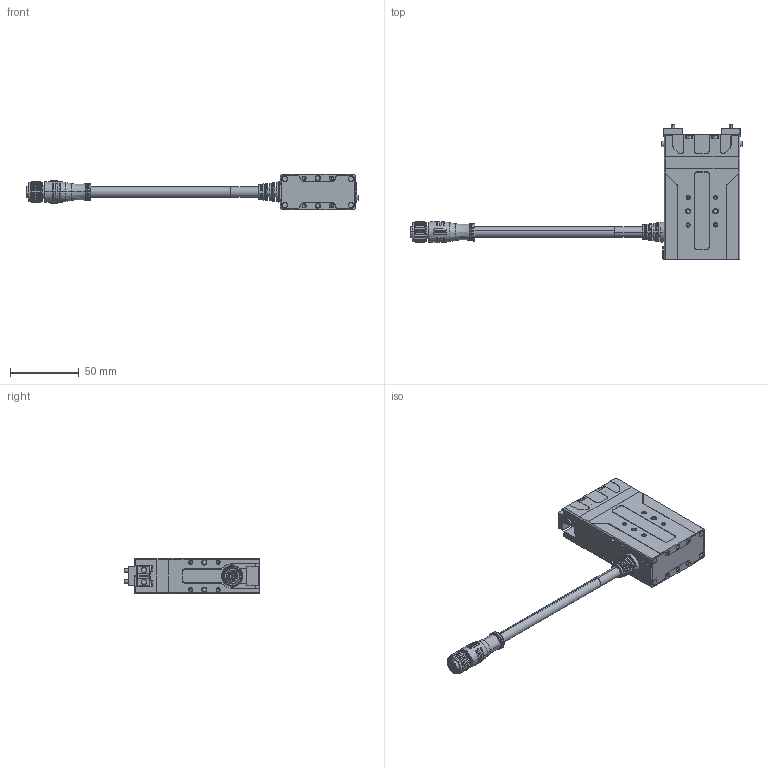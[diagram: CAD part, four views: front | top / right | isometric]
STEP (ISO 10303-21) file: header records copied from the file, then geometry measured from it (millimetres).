
FILE_DESCRIPTION (( 'STEP AP214' ), '1' );
FILE_NAME ('PGE-5-26-O-S.STEP', '2023-07-19T04:06:49', ( '' ), ( '' ), 'SwSTEP 2.0', 'SolidWorks 2020', '' );
FILE_SCHEMA (( 'AUTOMOTIVE_DESIGN' ));
Length unit declared in the file: millimetre
Products named in the file (3): PGE-5-26-O-S; PGE5-忒硌價釱; 耜堤褲
Assembly tree (3 placements, depth 2):
  PGE-5-26-O-S
    耜堤褲
    PGE5-忒硌價釱  x2
Bounding box: 241.5 x 98 x 26 mm (x, y, z)
Volume: 8194.6 mm3; surface area: 45769.5 mm2
Topology: 8 solids, 32 shells, 1718 faces, 4266 edges, 2644 vertices
Faces by surface type: plane 711, cylinder 420, cone 309, bspline 277, sphere 1
Full cylindrical faces by diameter (mm): 11.1 x3
Entity records: 79335 total; most frequent: CARTESIAN_POINT 26208, ORIENTED_EDGE 7770, DIRECTION 6686, EDGE_CURVE 3889, VERTEX_POINT 2464, AXIS2_PLACEMENT_3D 2406, LINE 1874, VECTOR 1874
